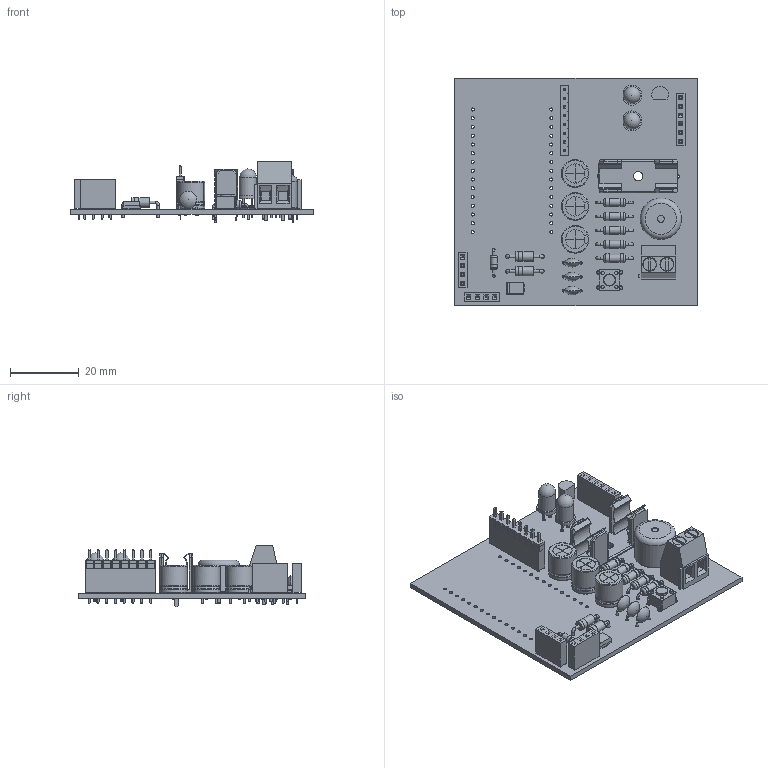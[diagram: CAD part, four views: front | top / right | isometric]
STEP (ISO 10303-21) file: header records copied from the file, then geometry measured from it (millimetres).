
FILE_DESCRIPTION(('KiCad electronic assembly'),'2;1');
FILE_NAME('.step','2026-10-30T09:07:55',('Pcbnew'),('Kicad'), 'Open CASCADE STEP processor 7.9','KiCad to STEP converter','Unknown' );
FILE_SCHEMA(('AUTOMOTIVE_DESIGN { 1 0 10303 214 1 1 1 1 }'));
Length unit declared in the file: millimetre
Products named in the file (34): .step 1; R_Axial_DIN0207_L6.3mm_D2.5mm_P10.16mm_Horizontal; R_Axial_DIN0207_L63mm_D25mm_P1016mm_Horizontal; TerminalBlock_Phoenix_MKDS-1,5-2_1x02_P5.00mm_Horizontal; PinHeader_1x08_P2.54mm_Vertical; PinHeader_1x08_P254mm_Vertical; PinSocket_1x08_P2.54mm_Vertical; CP_Radial_D8.0mm_P3.50mm; CP_Radial_D80mm_P350mm; LED_D5.0mm; TO-92_Inline; TO-92_Inline_Narrow; PinSocket_1x04_P2.54mm_Vertical; C_Disc_D5.0mm_W2.5mm_P5.00mm; C_Disc_D50mm_W25mm_P500mm; Fuseholder_Cylinder-5x20mm_Schurter_0031_8201_Horizontal_Open; A_Schurter_0031_8201; Buzzer_12x9.5RM7.6; Buzzer_12x95RM76; D_SMB; PinSocket_1x06_P2.54mm_Vertical; D_DO-41_SOD81_P10.16mm_Horizontal; D_DO-35_SOD27_P7.62mm_Horizontal; SW_PUSH_6mm; first problem_PCB
Assembly tree (44 placements, depth 3):
  .step 1
    R_Axial_DIN0207_L6.3mm_D2.5mm_P10.16mm_Horizontal  x5
      R_Axial_DIN0207_L63mm_D25mm_P1016mm_Horizontal
    TerminalBlock_Phoenix_MKDS-1,5-2_1x02_P5.00mm_Horizontal
      TerminalBlock_Phoenix_MKDS-1,5-2_1x02_P5.00mm_Horizontal
    PinHeader_1x08_P2.54mm_Vertical
      PinHeader_1x08_P254mm_Vertical
    PinSocket_1x08_P2.54mm_Vertical
      PinSocket_1x08_P2.54mm_Vertical
    CP_Radial_D8.0mm_P3.50mm  x3
      CP_Radial_D80mm_P350mm
    LED_D5.0mm  x2
      LED_D5.0mm
    TO-92_Inline
      TO-92_Inline_Narrow
    PinSocket_1x04_P2.54mm_Vertical  x2
      PinSocket_1x04_P2.54mm_Vertical
    C_Disc_D5.0mm_W2.5mm_P5.00mm  x3
      C_Disc_D50mm_W25mm_P500mm
    Fuseholder_Cylinder-5x20mm_Schurter_0031_8201_Horizontal_Open
      A_Schurter_0031_8201
    Buzzer_12x9.5RM7.6
      Buzzer_12x95RM76
    D_SMB
      D_SMB
    PinSocket_1x06_P2.54mm_Vertical
      PinSocket_1x06_P2.54mm_Vertical
    D_DO-41_SOD81_P10.16mm_Horizontal  x2
      D_DO-41_SOD81_P10.16mm_Horizontal
    D_DO-35_SOD27_P7.62mm_Horizontal
      D_DO-35_SOD27_P7.62mm_Horizontal
    SW_PUSH_6mm
      SW_PUSH_6mm
    first problem_PCB
Bounding box: 70.25 x 66 x 17.8 mm (x, y, z)
Volume: 12856.2 mm3; surface area: 18637.8 mm2
Topology: 29 solids, 32 shells, 1653 faces, 4108 edges, 2633 vertices
Faces by surface type: plane 1229, cylinder 311, bspline 42, torus 39, revolution 24, sphere 8
Full cylindrical faces by diameter (mm): 0.002 x1, 0.5 x21, 0.6 x20, 0.75 x3, 0.762 x8, 0.8 x32, 0.9 x36, 1 x20, 1.1 x8, 1.3 x4, 2 x3, 2.02 x1, 2.25 x5, 2.5 x10, 2.7 x6, 2.72 x2, 3.5 x1, 3.8 x2, 4 x2, 4.9 x2, 12 x1
Entity records: 51933 total; most frequent: CARTESIAN_POINT 8045, ORIENTED_EDGE 6650, DIRECTION 6451, EDGE_CURVE 3325, LINE 2719, VECTOR 2719, VERTEX_POINT 2136, AXIS2_PLACEMENT_3D 1862
